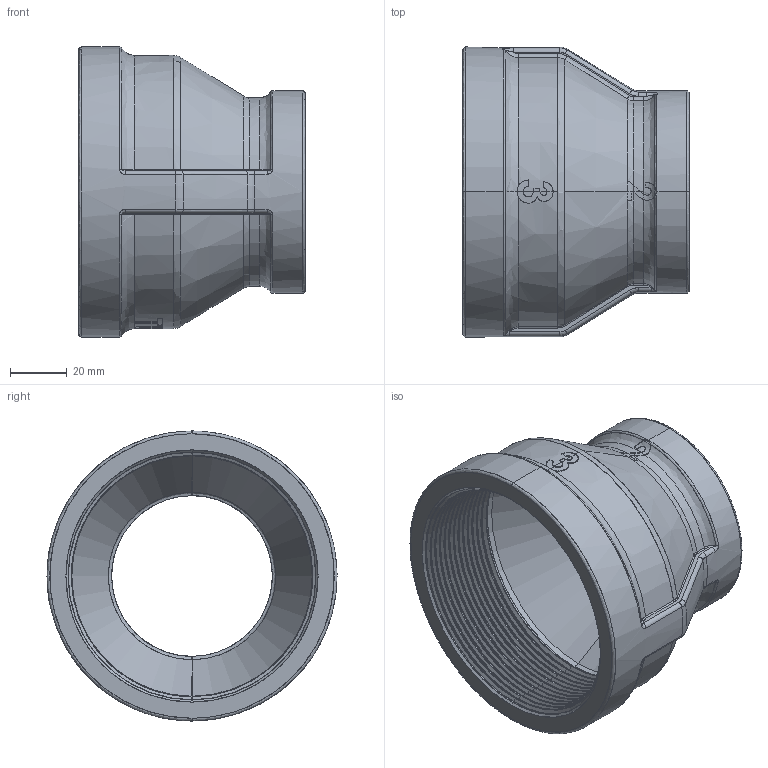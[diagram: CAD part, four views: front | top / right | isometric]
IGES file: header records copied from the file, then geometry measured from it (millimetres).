
Start section: SolidWorks IGES file using analytic representation for surfaces
Global section: file name: C:\Users\Joel Rosa\Desktop\Tubulação\12-32-OK\12-32-055.IGS; native system: SolidWorks 2011; preprocessor: SolidWorks 2011; author: Joel Rosa; date: 121209.022334; units: millimetre
Bounding box: 80 x 102.4 x 102.4 mm (x, y, z)
Surface area: 55058.9 mm2 (no closed solid volume)
Topology: 0 solids, 0 shells, 475 faces, 4143 edges, 4141 vertices
Faces by surface type: bspline 319, revolution 156
